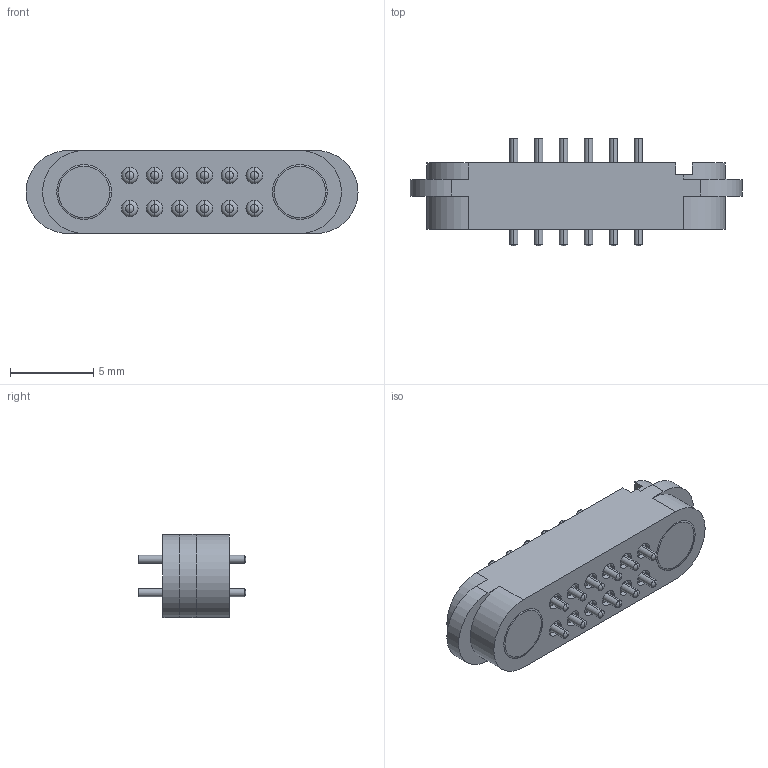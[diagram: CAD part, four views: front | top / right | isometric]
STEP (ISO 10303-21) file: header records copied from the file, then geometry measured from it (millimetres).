
FILE_DESCRIPTION((''),'2;1');
FILE_NAME('ASM0001_ASM','2026-07-06T17:54:04',('Administrator'),(''),'CREO PARAMETRIC BY PTC INC, 2023073','CREO PARAMETRIC BY PTC INC, 2023073','');
FILE_SCHEMA(('CONFIG_CONTROL_DESIGN'));
Length unit declared in the file: millimetre
Products named in the file (4): PRT0001; PG; CT; ASM0001_ASM
Assembly tree (15 placements, depth 2):
  ASM0001_ASM
    PRT0001
    PG  x12
    CT  x2
Bounding box: 20 x 6.5 x 5 mm (x, y, z)
Volume: 329.9 mm3; surface area: 864.6 mm2
Topology: 15 solids, 15 shells, 369 faces, 800 edges, 472 vertices
Faces by surface type: cylinder 190, plane 67, cone 56, torus 32, sphere 24
Entity records: 4214 total; most frequent: DIRECTION 816, CARTESIAN_POINT 682, ORIENTED_EDGE 644, AXIS2_PLACEMENT_3D 345, EDGE_CURVE 322, VERTEX_POINT 211, CIRCLE 196, EDGE_LOOP 171
